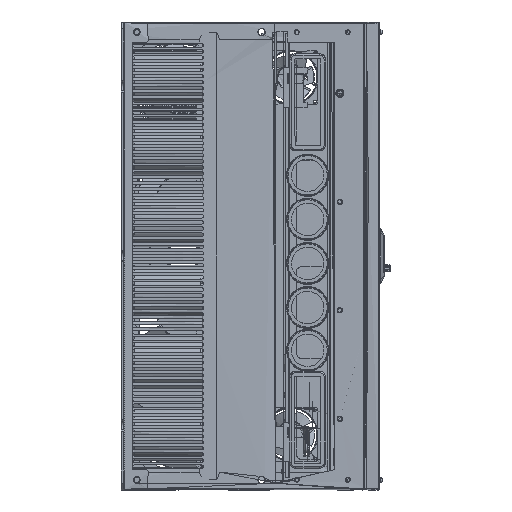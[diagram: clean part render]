
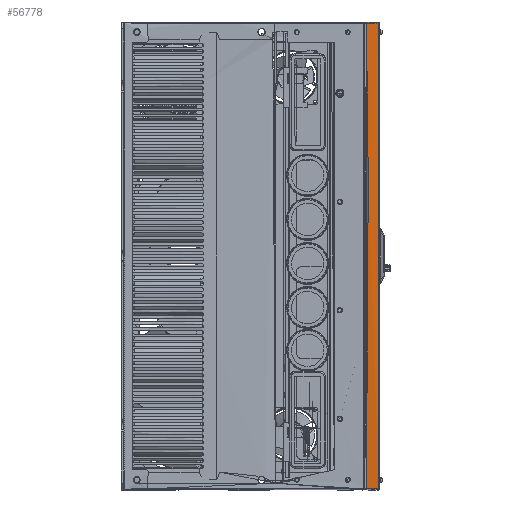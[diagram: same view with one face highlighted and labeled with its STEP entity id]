
A CAD part, front view. The second image highlights one B-rep face of the part: STEP entity #56778.
In plain terms, the highlighted planar face has unit normal (0, -1, 0).
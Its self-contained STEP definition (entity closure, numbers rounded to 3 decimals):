
#3033 = B_SPLINE_CURVE_WITH_KNOTS ( 'NONE', 3,
 ( #18234, #72678, #138082, #161956 ),
 .UNSPECIFIED., .F., .F.,
 ( 4, 4 ),
 ( 0., 1. ),
 .UNSPECIFIED. ) ;
#5128 = VERTEX_POINT ( 'NONE', #155403 ) ;
#15253 = CARTESIAN_POINT ( 'NONE',  ( 198.65, -455., -343.3 ) ) ;
#16827 = EDGE_CURVE ( 'NONE', #105665, #60295, #129568, .T. ) ;
#17608 = DIRECTION ( 'NONE',  ( 0., -1., 0. ) ) ;
#17801 = CARTESIAN_POINT ( 'NONE',  ( 188.517, -455., -343.3 ) ) ;
#18234 = CARTESIAN_POINT ( 'NONE',  ( 198.65, -455., 343.3 ) ) ;
#24179 = CARTESIAN_POINT ( 'NONE',  ( 184.05, -455., 112.767 ) ) ;
#29455 = ORIENTED_EDGE ( 'NONE', *, *, #16827, .F. ) ;
#30330 = FACE_OUTER_BOUND ( 'NONE', #106431, .T. ) ;
#33807 = CARTESIAN_POINT ( 'NONE',  ( 184.05, -455., -112.767 ) ) ;
#38470 = CARTESIAN_POINT ( 'NONE',  ( 199.481, -455., -343.359 ) ) ;
#40773 = CARTESIAN_POINT ( 'NONE',  ( 193.583, -455., -343.3 ) ) ;
#42017 = AXIS2_PLACEMENT_3D ( 'NONE', #119724, #17608, #55918 ) ;
#42913 = CARTESIAN_POINT ( 'NONE',  ( 198.65, -455., 114.433 ) ) ;
#44603 = CARTESIAN_POINT ( 'NONE',  ( 198.65, -455., -343.3 ) ) ;
#55370 = B_SPLINE_CURVE_WITH_KNOTS ( 'NONE', 3,
 ( #159836, #17801, #40773, #15253 ),
 .UNSPECIFIED., .F., .F.,
 ( 4, 4 ),
 ( 0., 1. ),
 .UNSPECIFIED. ) ;
#55762 = CARTESIAN_POINT ( 'NONE',  ( 198.65, -455., -114.433 ) ) ;
#55918 = DIRECTION ( 'NONE',  ( 0., 0., -1. ) ) ;
#56778 = ADVANCED_FACE ( 'NONE', ( #30330 ), #71196, .T. ) ;
#56826 = B_SPLINE_CURVE_WITH_KNOTS ( 'NONE', 3,
 ( #67955, #24179, #33807, #59377 ),
 .UNSPECIFIED., .F., .F.,
 ( 4, 4 ),
 ( 0., 1. ),
 .UNSPECIFIED. ) ;
#57429 = CARTESIAN_POINT ( 'NONE',  ( 198.65, -455., 343.3 ) ) ;
#59377 = CARTESIAN_POINT ( 'NONE',  ( 184.05, -455., -338.3 ) ) ;
#60295 = VERTEX_POINT ( 'NONE', #38470 ) ;
#63991 = CARTESIAN_POINT ( 'NONE',  ( 199.248, -454.225, 343.827 ) ) ;
#65448 = VERTEX_POINT ( 'NONE', #140726 ) ;
#67955 = CARTESIAN_POINT ( 'NONE',  ( 184.05, -455., 338.3 ) ) ;
#71196 = PLANE ( 'NONE',  #42017 ) ;
#72678 = CARTESIAN_POINT ( 'NONE',  ( 193.583, -455., 343.3 ) ) ;
#100651 = EDGE_CURVE ( 'NONE', #105665, #65448, #3033, .T. ) ;
#105665 = VERTEX_POINT ( 'NONE', #63991 ) ;
#106431 = EDGE_LOOP ( 'NONE', ( #107040, #29455, #109797, #146094 ) ) ;
#107040 = ORIENTED_EDGE ( 'NONE', *, *, #167005, .T. ) ;
#109797 = ORIENTED_EDGE ( 'NONE', *, *, #100651, .T. ) ;
#119724 = CARTESIAN_POINT ( 'NONE',  ( 200.35, -455., 343.3 ) ) ;
#129568 = B_SPLINE_CURVE_WITH_KNOTS ( 'NONE', 3,
 ( #57429, #42913, #55762, #44603 ),
 .UNSPECIFIED., .F., .F.,
 ( 4, 4 ),
 ( 0., 1. ),
 .UNSPECIFIED. ) ;
#138082 = CARTESIAN_POINT ( 'NONE',  ( 188.517, -455., 343.3 ) ) ;
#140564 = EDGE_CURVE ( 'NONE', #65448, #5128, #56826, .T. ) ;
#140726 = CARTESIAN_POINT ( 'NONE',  ( 181.386, -453.882, 342.658 ) ) ;
#146094 = ORIENTED_EDGE ( 'NONE', *, *, #140564, .T. ) ;
#155403 = CARTESIAN_POINT ( 'NONE',  ( 181.367, -453.893, -342.617 ) ) ;
#159836 = CARTESIAN_POINT ( 'NONE',  ( 183.45, -455., -343.3 ) ) ;
#161956 = CARTESIAN_POINT ( 'NONE',  ( 183.45, -455., 343.3 ) ) ;
#167005 = EDGE_CURVE ( 'NONE', #5128, #60295, #55370, .T. ) ;
